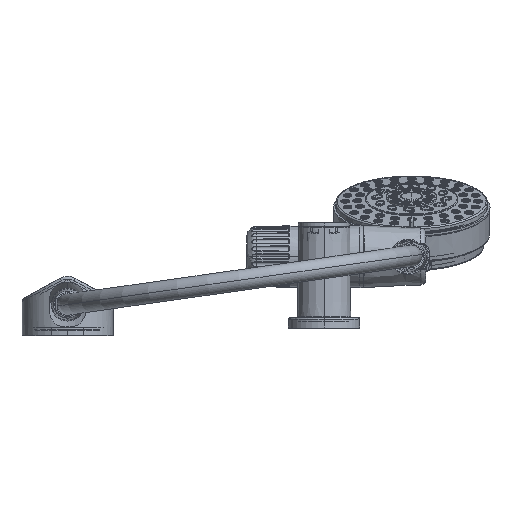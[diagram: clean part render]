
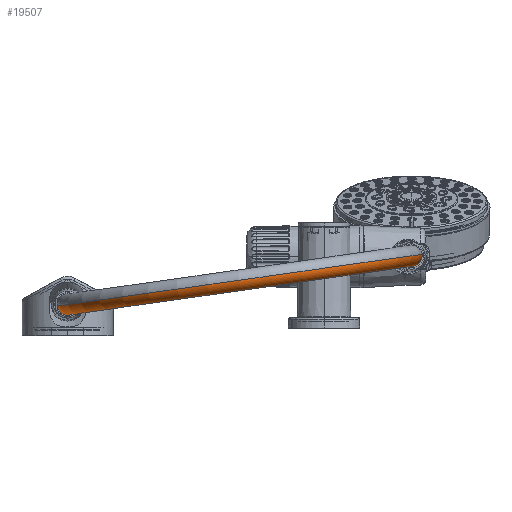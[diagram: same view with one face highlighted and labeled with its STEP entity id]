
A CAD part, front view. The second image highlights one B-rep face of the part: STEP entity #19507.
In plain terms, the highlighted toroidal (fillet/blend) face has major radius 116.457 mm and minor radius 7 mm.
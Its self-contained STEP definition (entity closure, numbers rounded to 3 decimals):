
#5609 = DIRECTION ( 'NONE',  ( 0., -1., 0. ) ) ;
#11195 = ORIENTED_EDGE ( 'NONE', *, *, #21973, .F. ) ;
#11774 = EDGE_CURVE ( 'NONE', #94134, #95114, #19905, .T. ) ;
#13261 = CARTESIAN_POINT ( 'NONE',  ( 58.605, -199.481, 0.491 ) ) ;
#14625 = AXIS2_PLACEMENT_3D ( 'NONE', #87714, #71871, #95366 ) ;
#15352 = DIRECTION ( 'NONE',  ( 0., 1., 0. ) ) ;
#19507 = ADVANCED_FACE ( 'NONE', ( #48482 ), #75353, .T. ) ;
#19905 = CIRCLE ( 'NONE', #39057, 7. ) ;
#21876 = CARTESIAN_POINT ( 'NONE',  ( 51.674, -199.481, -0.492 ) ) ;
#21973 = EDGE_CURVE ( 'NONE', #41954, #91439, #54734, .T. ) ;
#22319 = DIRECTION ( 'NONE',  ( -0.14, 0., 0.99 ) ) ;
#23405 = DIRECTION ( 'NONE',  ( 0.99, 0., 0.14 ) ) ;
#27536 = ORIENTED_EDGE ( 'NONE', *, *, #84833, .F. ) ;
#31588 = EDGE_CURVE ( 'NONE', #94134, #88740, #62914, .T. ) ;
#38403 = CARTESIAN_POINT ( 'NONE',  ( -172., -199.481, -32.223 ) ) ;
#38852 = AXIS2_PLACEMENT_3D ( 'NONE', #64823, #22319, #23405 ) ;
#39057 = AXIS2_PLACEMENT_3D ( 'NONE', #38403, #71672, #106587 ) ;
#39822 = EDGE_LOOP ( 'NONE', ( #11195, #27536, #84099, #93221, #95607, #62570 ) ) ;
#41954 = VERTEX_POINT ( 'NONE', #89765 ) ;
#42197 = EDGE_CURVE ( 'NONE', #88740, #85027, #106499, .T. ) ;
#48482 = FACE_OUTER_BOUND ( 'NONE', #39822, .T. ) ;
#54734 = CIRCLE ( 'NONE', #14625, 123.457 ) ;
#55491 = DIRECTION ( 'NONE',  ( 0.99, 0., 0.14 ) ) ;
#59437 = AXIS2_PLACEMENT_3D ( 'NONE', #13261, #5609, #96184 ) ;
#62570 = ORIENTED_EDGE ( 'NONE', *, *, #93510, .T. ) ;
#62914 = CIRCLE ( 'NONE', #89095, 109.457 ) ;
#63407 = CIRCLE ( 'NONE', #101799, 7. ) ;
#64823 = CARTESIAN_POINT ( 'NONE',  ( -56.698, -199.481, -15.866 ) ) ;
#70341 = CARTESIAN_POINT ( 'NONE',  ( 65.605, -199.481, 0.491 ) ) ;
#71672 = DIRECTION ( 'NONE',  ( 0., 1., 0. ) ) ;
#71871 = DIRECTION ( 'NONE',  ( -0.14, 0., 0.99 ) ) ;
#75353 = TOROIDAL_SURFACE ( 'NONE', #38852, 116.457, 7. ) ;
#76776 = AXIS2_PLACEMENT_3D ( 'NONE', #97739, #15352, #106996 ) ;
#77245 = CARTESIAN_POINT ( 'NONE',  ( 58.605, -199.481, 0.491 ) ) ;
#81114 = DIRECTION ( 'NONE',  ( -0.14, 0., 0.99 ) ) ;
#84099 = ORIENTED_EDGE ( 'NONE', *, *, #11774, .F. ) ;
#84830 = CARTESIAN_POINT ( 'NONE',  ( -165., -199.481, -32.223 ) ) ;
#84833 = EDGE_CURVE ( 'NONE', #95114, #41954, #92456, .T. ) ;
#84888 = DIRECTION ( 'NONE',  ( 0., 0., -1. ) ) ;
#85027 = VERTEX_POINT ( 'NONE', #70341 ) ;
#87714 = CARTESIAN_POINT ( 'NONE',  ( -56.698, -199.481, -15.866 ) ) ;
#88740 = VERTEX_POINT ( 'NONE', #21876 ) ;
#89095 = AXIS2_PLACEMENT_3D ( 'NONE', #104573, #81114, #55491 ) ;
#89765 = CARTESIAN_POINT ( 'NONE',  ( -178.931, -199.481, -33.206 ) ) ;
#91439 = VERTEX_POINT ( 'NONE', #102391 ) ;
#92456 = CIRCLE ( 'NONE', #76776, 7. ) ;
#93221 = ORIENTED_EDGE ( 'NONE', *, *, #31588, .T. ) ;
#93510 = EDGE_CURVE ( 'NONE', #85027, #91439, #63407, .T. ) ;
#94134 = VERTEX_POINT ( 'NONE', #100504 ) ;
#94142 = DIRECTION ( 'NONE',  ( 0., -1., 0. ) ) ;
#95114 = VERTEX_POINT ( 'NONE', #84830 ) ;
#95366 = DIRECTION ( 'NONE',  ( 0.99, 0., 0.14 ) ) ;
#95607 = ORIENTED_EDGE ( 'NONE', *, *, #42197, .T. ) ;
#96184 = DIRECTION ( 'NONE',  ( 0., 0., -1. ) ) ;
#97739 = CARTESIAN_POINT ( 'NONE',  ( -172., -199.481, -32.223 ) ) ;
#100504 = CARTESIAN_POINT ( 'NONE',  ( -165.069, -199.481, -31.24 ) ) ;
#101799 = AXIS2_PLACEMENT_3D ( 'NONE', #77245, #94142, #84888 ) ;
#102391 = CARTESIAN_POINT ( 'NONE',  ( 65.535, -199.481, 1.474 ) ) ;
#104573 = CARTESIAN_POINT ( 'NONE',  ( -56.698, -199.481, -15.866 ) ) ;
#106499 = CIRCLE ( 'NONE', #59437, 7. ) ;
#106587 = DIRECTION ( 'NONE',  ( 0.278, 0., -0.961 ) ) ;
#106996 = DIRECTION ( 'NONE',  ( 0.278, 0., -0.961 ) ) ;
